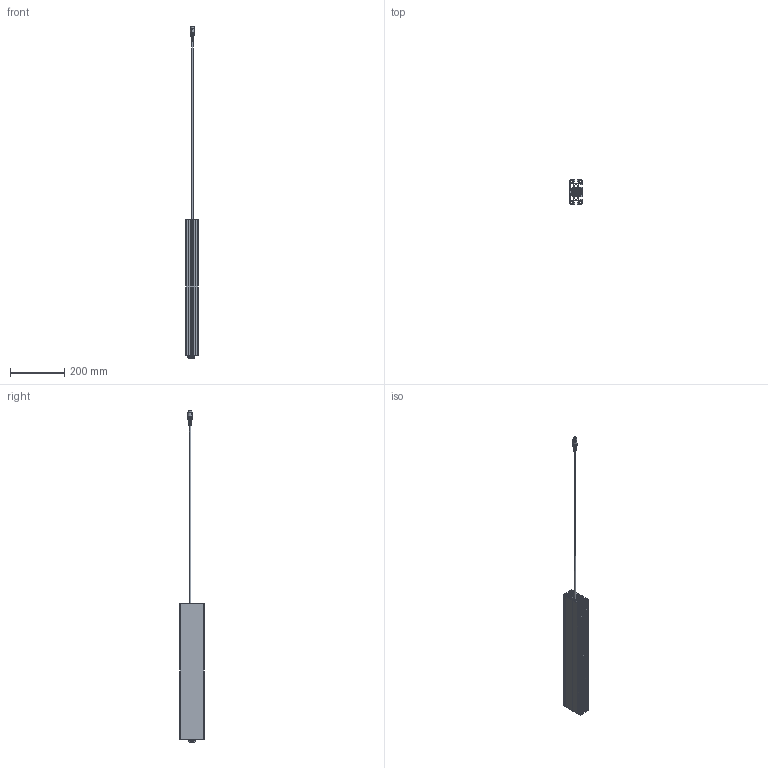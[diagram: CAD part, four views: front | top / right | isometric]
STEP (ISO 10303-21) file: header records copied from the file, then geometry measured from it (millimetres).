
FILE_DESCRIPTION (( 'STEP AP214' ), '1' );
FILE_NAME ('004 10272_ZB Actuator SMS-B 45x90_Hub150_eingefahren.STEP', '2018-09-03T09:05:52', ( '' ), ( '' ), 'SwSTEP 2.0', 'SolidWorks 2017', '' );
FILE_SCHEMA (( 'AUTOMOTIVE_DESIGN' ));
Length unit declared in the file: millimetre
Products named in the file (1): 004 10272_ZB Actuator SMS-B 45x90_Hub150_eingefahren
Bounding box: 45 x 90 x 1225.6 mm (x, y, z)
Surface area: 614052.4 mm2 (no closed solid volume)
Topology: 0 solids, 5 shells, 3001 faces, 8202 edges, 5053 vertices
Faces by surface type: plane 969, bspline 904, cylinder 716, cone 291, torus 81, sphere 40
Entity records: 168469 total; most frequent: CARTESIAN_POINT 86661, ORIENTED_EDGE 15940, DIRECTION 11317, EDGE_CURVE 7973, VERTEX_POINT 5049, AXIS2_PLACEMENT_3D 4222, EDGE_LOOP 3121, ADVANCED_FACE 3001
